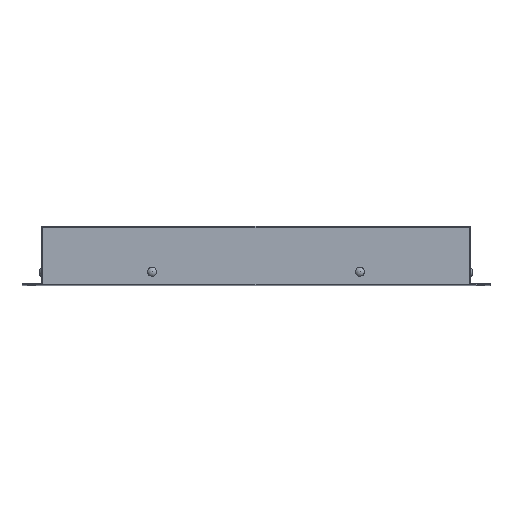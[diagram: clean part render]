
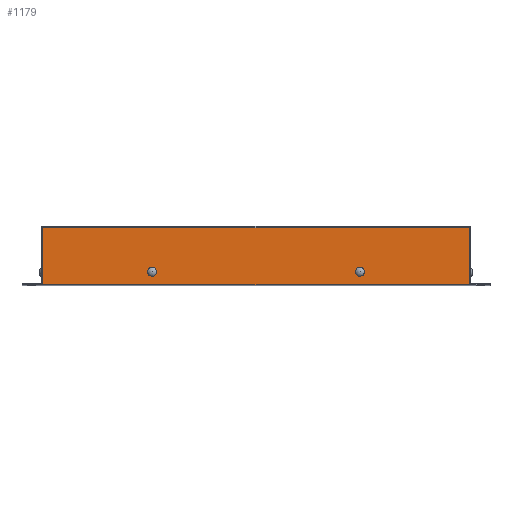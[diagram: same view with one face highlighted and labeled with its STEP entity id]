
A CAD part, top view. The second image highlights one B-rep face of the part: STEP entity #1179.
In plain terms, the highlighted planar face has unit normal (0, 0, 1).
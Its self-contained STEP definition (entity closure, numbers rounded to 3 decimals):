
#20 = AXIS2_PLACEMENT_3D ( 'NONE', #1981, #2959, #2723 ) ;
#39 = VERTEX_POINT ( 'NONE', #1410 ) ;
#106 = VECTOR ( 'NONE', #1889, 1000. ) ;
#259 = ORIENTED_EDGE ( 'NONE', *, *, #543, .F. ) ;
#350 = ORIENTED_EDGE ( 'NONE', *, *, #2341, .T. ) ;
#362 = LINE ( 'NONE', #2284, #1036 ) ;
#428 = CIRCLE ( 'NONE', #20, 3.45 ) ;
#483 = DIRECTION ( 'NONE',  ( 1., 0., 0. ) ) ;
#543 = EDGE_CURVE ( 'NONE', #2869, #1349, #2138, .T. ) ;
#595 = LINE ( 'NONE', #1329, #1440 ) ;
#824 = EDGE_LOOP ( 'NONE', ( #350, #2285, #259, #2345 ) ) ;
#842 = EDGE_CURVE ( 'NONE', #2621, #2621, #2559, .T. ) ;
#873 = CARTESIAN_POINT ( 'NONE',  ( -83.367, 9.254, 215. ) ) ;
#988 = PLANE ( 'NONE',  #3102 ) ;
#1036 = VECTOR ( 'NONE', #1802, 1000. ) ;
#1075 = DIRECTION ( 'NONE',  ( -1., 0., 0. ) ) ;
#1118 = CARTESIAN_POINT ( 'NONE',  ( 164., -1.5, 215. ) ) ;
#1179 = ADVANCED_FACE ( 'NONE', ( #2180, #1948, #2436 ), #988, .T. ) ;
#1329 = CARTESIAN_POINT ( 'NONE',  ( -165., 42.5, 215. ) ) ;
#1349 = VERTEX_POINT ( 'NONE', #1960 ) ;
#1404 = ORIENTED_EDGE ( 'NONE', *, *, #842, .F. ) ;
#1410 = CARTESIAN_POINT ( 'NONE',  ( 164., 42.5, 215. ) ) ;
#1440 = VECTOR ( 'NONE', #1075, 1000. ) ;
#1466 = VERTEX_POINT ( 'NONE', #2450 ) ;
#1468 = EDGE_LOOP ( 'NONE', ( #1404 ) ) ;
#1562 = VERTEX_POINT ( 'NONE', #2706 ) ;
#1693 = EDGE_LOOP ( 'NONE', ( #3033 ) ) ;
#1708 = EDGE_CURVE ( 'NONE', #2869, #39, #362, .T. ) ;
#1802 = DIRECTION ( 'NONE',  ( 0., 1., 0. ) ) ;
#1889 = DIRECTION ( 'NONE',  ( -1., 0., 0. ) ) ;
#1932 = CARTESIAN_POINT ( 'NONE',  ( -165., 585.533, 215. ) ) ;
#1948 = FACE_BOUND ( 'NONE', #1693, .T. ) ;
#1960 = CARTESIAN_POINT ( 'NONE',  ( -164., -1.5, 215. ) ) ;
#1981 = CARTESIAN_POINT ( 'NONE',  ( 80., 8.5, 215. ) ) ;
#2030 = LINE ( 'NONE', #2543, #2960 ) ;
#2046 = DIRECTION ( 'NONE',  ( -0.976, 0.219, 0. ) ) ;
#2062 = DIRECTION ( 'NONE',  ( 0., 0., 1. ) ) ;
#2138 = LINE ( 'NONE', #2837, #106 ) ;
#2180 = FACE_BOUND ( 'NONE', #1468, .T. ) ;
#2243 = CARTESIAN_POINT ( 'NONE',  ( -80., 8.5, 215. ) ) ;
#2284 = CARTESIAN_POINT ( 'NONE',  ( 164., 585.533, 215. ) ) ;
#2285 = ORIENTED_EDGE ( 'NONE', *, *, #2729, .T. ) ;
#2341 = EDGE_CURVE ( 'NONE', #39, #1562, #595, .T. ) ;
#2345 = ORIENTED_EDGE ( 'NONE', *, *, #1708, .T. ) ;
#2436 = FACE_OUTER_BOUND ( 'NONE', #824, .T. ) ;
#2450 = CARTESIAN_POINT ( 'NONE',  ( 76.633, 7.746, 215. ) ) ;
#2509 = AXIS2_PLACEMENT_3D ( 'NONE', #2243, #2062, #2046 ) ;
#2543 = CARTESIAN_POINT ( 'NONE',  ( -164., 585.533, 215. ) ) ;
#2547 = EDGE_CURVE ( 'NONE', #1466, #1466, #428, .T. ) ;
#2559 = CIRCLE ( 'NONE', #2509, 3.45 ) ;
#2621 = VERTEX_POINT ( 'NONE', #873 ) ;
#2706 = CARTESIAN_POINT ( 'NONE',  ( -164., 42.5, 215. ) ) ;
#2723 = DIRECTION ( 'NONE',  ( -0.976, -0.219, 0. ) ) ;
#2729 = EDGE_CURVE ( 'NONE', #1562, #1349, #2030, .T. ) ;
#2837 = CARTESIAN_POINT ( 'NONE',  ( -165., -1.5, 215. ) ) ;
#2869 = VERTEX_POINT ( 'NONE', #1118 ) ;
#2924 = DIRECTION ( 'NONE',  ( 0., 0., 1. ) ) ;
#2959 = DIRECTION ( 'NONE',  ( 0., 0., 1. ) ) ;
#2960 = VECTOR ( 'NONE', #3009, 1000. ) ;
#3009 = DIRECTION ( 'NONE',  ( 0., -1., 0. ) ) ;
#3033 = ORIENTED_EDGE ( 'NONE', *, *, #2547, .F. ) ;
#3102 = AXIS2_PLACEMENT_3D ( 'NONE', #1932, #2924, #483 ) ;
